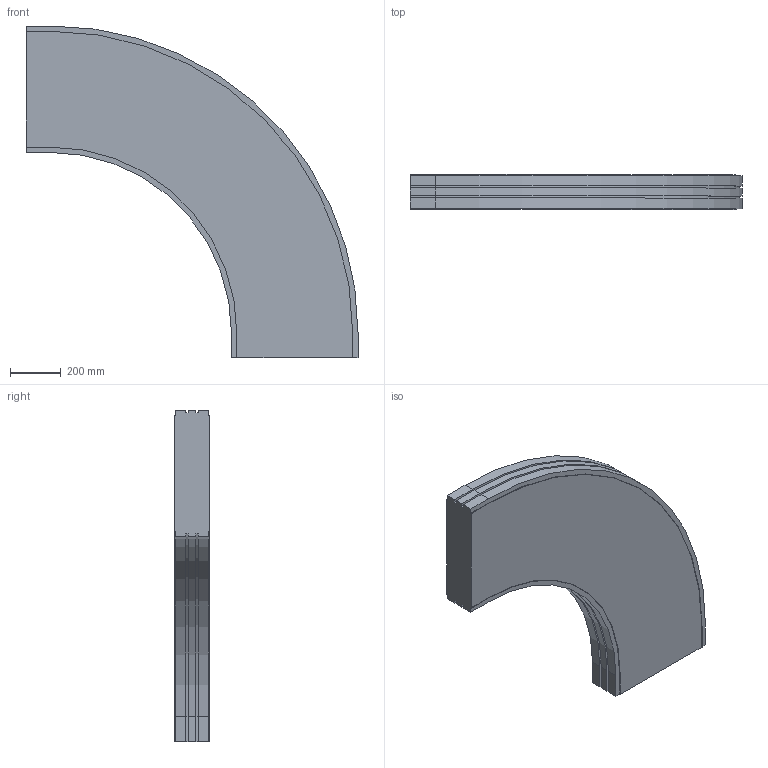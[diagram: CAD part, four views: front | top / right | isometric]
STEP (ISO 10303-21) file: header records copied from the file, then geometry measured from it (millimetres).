
FILE_DESCRIPTION (( 'STEP AP214' ), '1' );
FILE_NAME ('02.150H90.500.N FS-MTC-150 Bocht horizontaal 90°.STEP', '2013-03-29T11:19:17', ( 'Gebruiker' ), ( '' ), 'SwSTEP 2.0', 'SolidWorks 2012', '' );
FILE_SCHEMA (( 'AUTOMOTIVE_DESIGN' ));
Length unit declared in the file: millimetre
Products named in the file (1): 02.150H90.500.N FS-MTC-150 Bocht horizontaal 90°
Bounding box: 1309.5 x 136 x 1309.5 mm (x, y, z)
Volume: 114913557.8 mm3; surface area: 2453977.8 mm2
Topology: 1 solids, 1 shells, 58 faces, 168 edges, 112 vertices
Faces by surface type: plane 44, cylinder 14
Entity records: 1934 total; most frequent: CARTESIAN_POINT 339, ORIENTED_EDGE 336, DIRECTION 314, EDGE_CURVE 168, LINE 140, VECTOR 140, VERTEX_POINT 112, AXIS2_PLACEMENT_3D 87
